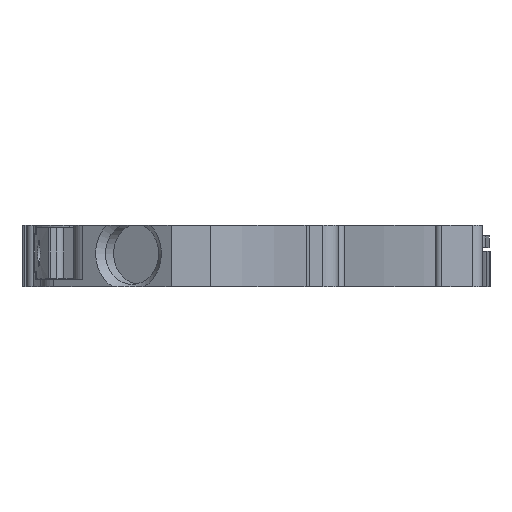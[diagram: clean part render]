
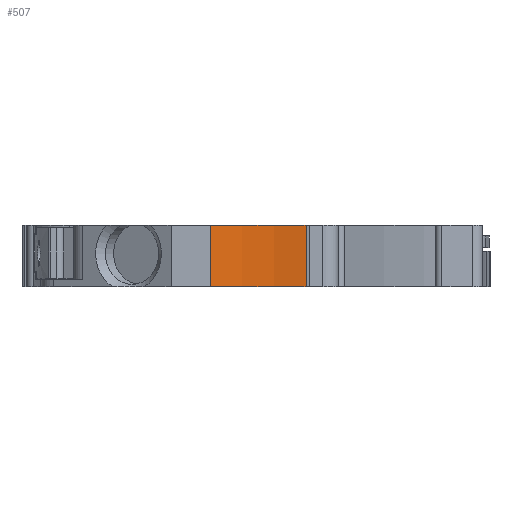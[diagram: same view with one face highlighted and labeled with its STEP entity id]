
A CAD part, left-side view. The second image highlights one B-rep face of the part: STEP entity #507.
In plain terms, the highlighted cylindrical face has radius 20 mm (diameter 40 mm), a partial arc.
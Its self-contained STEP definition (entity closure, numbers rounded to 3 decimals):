
#507 = ADVANCED_FACE( '', ( #1192 ), #1193, .F. );
#1192 = FACE_OUTER_BOUND( '', #2053, .T. );
#1193 = CYLINDRICAL_SURFACE( '', #2054, 20. );
#2053 = EDGE_LOOP( '', ( #3614, #3615, #3616, #3617 ) );
#2054 = AXIS2_PLACEMENT_3D( '', #3618, #3619, #3620 );
#3614 = ORIENTED_EDGE( '', *, *, #5985, .F. );
#3615 = ORIENTED_EDGE( '', *, *, #5986, .F. );
#3616 = ORIENTED_EDGE( '', *, *, #5754, .T. );
#3617 = ORIENTED_EDGE( '', *, *, #5987, .T. );
#3618 = CARTESIAN_POINT( '', ( -61.1, 12., 5.2 ) );
#3619 = DIRECTION( '', ( 0., 0., 1. ) );
#3620 = DIRECTION( '', ( -1., 0., 0. ) );
#5754 = EDGE_CURVE( '', #7143, #7141, #7144, .T. );
#5985 = EDGE_CURVE( '', #7504, #7505, #7506, .T. );
#5986 = EDGE_CURVE( '', #7143, #7504, #7507, .T. );
#5987 = EDGE_CURVE( '', #7141, #7505, #7508, .T. );
#7141 = VERTEX_POINT( '', #9042 );
#7143 = VERTEX_POINT( '', #9045 );
#7144 = CIRCLE( '', #9046, 20. );
#7504 = VERTEX_POINT( '', #9550 );
#7505 = VERTEX_POINT( '', #9551 );
#7506 = CIRCLE( '', #9552, 20. );
#7507 = LINE( '', #9553, #9554 );
#7508 = LINE( '', #9555, #9556 );
#9042 = CARTESIAN_POINT( '', ( -41.64, 16.616, 5.2 ) );
#9045 = CARTESIAN_POINT( '', ( -41.404, 8.527, 5.2 ) );
#9046 = AXIS2_PLACEMENT_3D( '', #10943, #10944, #10945 );
#9550 = CARTESIAN_POINT( '', ( -41.404, 8.527, 0. ) );
#9551 = CARTESIAN_POINT( '', ( -41.64, 16.616, 0. ) );
#9552 = AXIS2_PLACEMENT_3D( '', #11229, #11230, #11231 );
#9553 = CARTESIAN_POINT( '', ( -41.404, 8.527, 5.2 ) );
#9554 = VECTOR( '', #11232, 1000. );
#9555 = CARTESIAN_POINT( '', ( -41.64, 16.616, 5.2 ) );
#9556 = VECTOR( '', #11233, 1000. );
#10943 = CARTESIAN_POINT( '', ( -61.1, 12., 5.2 ) );
#10944 = DIRECTION( '', ( 0., 0., 1. ) );
#10945 = DIRECTION( '', ( 1., 0., 0. ) );
#11229 = CARTESIAN_POINT( '', ( -61.1, 12., 0. ) );
#11230 = DIRECTION( '', ( 0., 0., 1. ) );
#11231 = DIRECTION( '', ( 1., 0., 0. ) );
#11232 = DIRECTION( '', ( 0., 0., -1. ) );
#11233 = DIRECTION( '', ( 0., 0., -1. ) );
